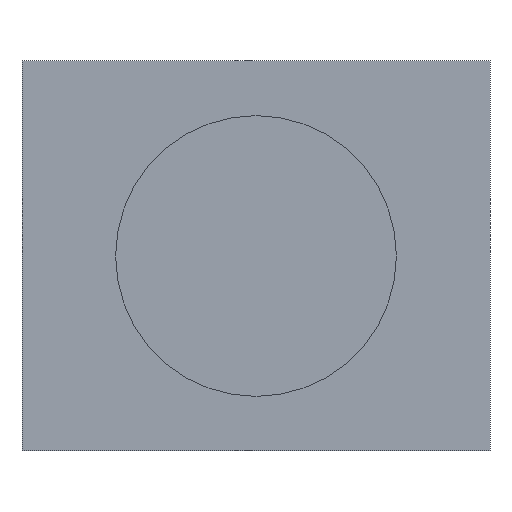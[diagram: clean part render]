
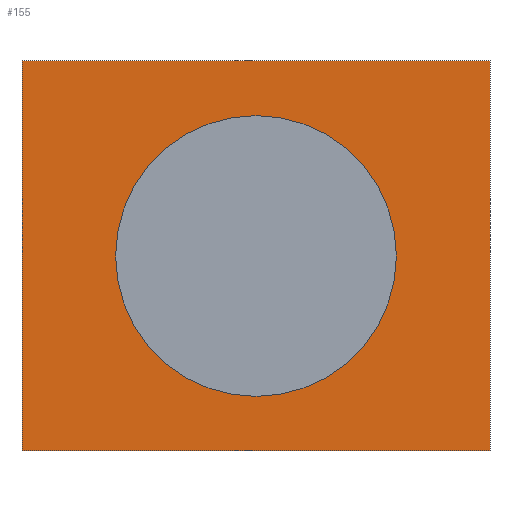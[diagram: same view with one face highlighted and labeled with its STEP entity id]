
A CAD part, front view. The second image highlights one B-rep face of the part: STEP entity #155.
In plain terms, the highlighted planar face has unit normal (0, -1, 0).
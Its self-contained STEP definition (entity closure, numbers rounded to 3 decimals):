
#39 = EDGE_CURVE('',#40,#42,#44,.T.);
#40 = VERTEX_POINT('',#41);
#41 = CARTESIAN_POINT('',(-3.,-8.5,0.));
#42 = VERTEX_POINT('',#43);
#43 = CARTESIAN_POINT('',(-3.,-8.5,5.));
#44 = SURFACE_CURVE('',#45,(#49,#61),.PCURVE_S1.);
#45 = LINE('',#46,#47);
#46 = CARTESIAN_POINT('',(-3.,-8.5,0.));
#47 = VECTOR('',#48,1.);
#48 = DIRECTION('',(0.,0.,1.));
#49 = PCURVE('',#50,#55);
#50 = PLANE('',#51);
#51 = AXIS2_PLACEMENT_3D('',#52,#53,#54);
#52 = CARTESIAN_POINT('',(-3.,-8.5,0.));
#53 = DIRECTION('',(1.,0.,0.));
#54 = DIRECTION('',(0.,0.,1.));
#55 = DEFINITIONAL_REPRESENTATION('',(#56),#60);
#56 = LINE('',#57,#58);
#57 = CARTESIAN_POINT('',(0.,0.));
#58 = VECTOR('',#59,1.);
#59 = DIRECTION('',(1.,0.));
#60 = ( GEOMETRIC_REPRESENTATION_CONTEXT(2) 
PARAMETRIC_REPRESENTATION_CONTEXT() REPRESENTATION_CONTEXT('2D SPACE',''
  ) );
#61 = PCURVE('',#62,#67);
#62 = PLANE('',#63);
#63 = AXIS2_PLACEMENT_3D('',#64,#65,#66);
#64 = CARTESIAN_POINT('',(-3.,-8.5,0.));
#65 = DIRECTION('',(0.,1.,0.));
#66 = DIRECTION('',(0.,0.,1.));
#67 = DEFINITIONAL_REPRESENTATION('',(#68),#72);
#68 = LINE('',#69,#70);
#69 = CARTESIAN_POINT('',(0.,0.));
#70 = VECTOR('',#71,1.);
#71 = DIRECTION('',(1.,0.));
#72 = ( GEOMETRIC_REPRESENTATION_CONTEXT(2) 
PARAMETRIC_REPRESENTATION_CONTEXT() REPRESENTATION_CONTEXT('2D SPACE',''
  ) );
#90 = PLANE('',#91);
#91 = AXIS2_PLACEMENT_3D('',#92,#93,#94);
#92 = CARTESIAN_POINT('',(-3.,-8.5,0.));
#93 = DIRECTION('',(0.,0.,1.));
#94 = DIRECTION('',(1.,0.,0.));
#144 = PLANE('',#145);
#145 = AXIS2_PLACEMENT_3D('',#146,#147,#148);
#146 = CARTESIAN_POINT('',(-3.,-8.5,5.));
#147 = DIRECTION('',(0.,0.,1.));
#148 = DIRECTION('',(1.,0.,0.));
#155 = ADVANCED_FACE('',(#156,#231),#62,.F.);
#156 = FACE_BOUND('',#157,.F.);
#157 = EDGE_LOOP('',(#158,#181,#182,#205));
#158 = ORIENTED_EDGE('',*,*,#159,.F.);
#159 = EDGE_CURVE('',#40,#160,#162,.T.);
#160 = VERTEX_POINT('',#161);
#161 = CARTESIAN_POINT('',(3.,-8.5,0.));
#162 = SURFACE_CURVE('',#163,(#167,#174),.PCURVE_S1.);
#163 = LINE('',#164,#165);
#164 = CARTESIAN_POINT('',(-3.,-8.5,0.));
#165 = VECTOR('',#166,1.);
#166 = DIRECTION('',(1.,0.,0.));
#167 = PCURVE('',#62,#168);
#168 = DEFINITIONAL_REPRESENTATION('',(#169),#173);
#169 = LINE('',#170,#171);
#170 = CARTESIAN_POINT('',(0.,0.));
#171 = VECTOR('',#172,1.);
#172 = DIRECTION('',(0.,1.));
#173 = ( GEOMETRIC_REPRESENTATION_CONTEXT(2) 
PARAMETRIC_REPRESENTATION_CONTEXT() REPRESENTATION_CONTEXT('2D SPACE',''
  ) );
#174 = PCURVE('',#90,#175);
#175 = DEFINITIONAL_REPRESENTATION('',(#176),#180);
#176 = LINE('',#177,#178);
#177 = CARTESIAN_POINT('',(0.,0.));
#178 = VECTOR('',#179,1.);
#179 = DIRECTION('',(1.,0.));
#180 = ( GEOMETRIC_REPRESENTATION_CONTEXT(2) 
PARAMETRIC_REPRESENTATION_CONTEXT() REPRESENTATION_CONTEXT('2D SPACE',''
  ) );
#181 = ORIENTED_EDGE('',*,*,#39,.T.);
#182 = ORIENTED_EDGE('',*,*,#183,.T.);
#183 = EDGE_CURVE('',#42,#184,#186,.T.);
#184 = VERTEX_POINT('',#185);
#185 = CARTESIAN_POINT('',(3.,-8.5,5.));
#186 = SURFACE_CURVE('',#187,(#191,#198),.PCURVE_S1.);
#187 = LINE('',#188,#189);
#188 = CARTESIAN_POINT('',(-3.,-8.5,5.));
#189 = VECTOR('',#190,1.);
#190 = DIRECTION('',(1.,0.,0.));
#191 = PCURVE('',#62,#192);
#192 = DEFINITIONAL_REPRESENTATION('',(#193),#197);
#193 = LINE('',#194,#195);
#194 = CARTESIAN_POINT('',(5.,0.));
#195 = VECTOR('',#196,1.);
#196 = DIRECTION('',(0.,1.));
#197 = ( GEOMETRIC_REPRESENTATION_CONTEXT(2) 
PARAMETRIC_REPRESENTATION_CONTEXT() REPRESENTATION_CONTEXT('2D SPACE',''
  ) );
#198 = PCURVE('',#144,#199);
#199 = DEFINITIONAL_REPRESENTATION('',(#200),#204);
#200 = LINE('',#201,#202);
#201 = CARTESIAN_POINT('',(0.,0.));
#202 = VECTOR('',#203,1.);
#203 = DIRECTION('',(1.,0.));
#204 = ( GEOMETRIC_REPRESENTATION_CONTEXT(2) 
PARAMETRIC_REPRESENTATION_CONTEXT() REPRESENTATION_CONTEXT('2D SPACE',''
  ) );
#205 = ORIENTED_EDGE('',*,*,#206,.F.);
#206 = EDGE_CURVE('',#160,#184,#207,.T.);
#207 = SURFACE_CURVE('',#208,(#212,#219),.PCURVE_S1.);
#208 = LINE('',#209,#210);
#209 = CARTESIAN_POINT('',(3.,-8.5,0.));
#210 = VECTOR('',#211,1.);
#211 = DIRECTION('',(0.,0.,1.));
#212 = PCURVE('',#62,#213);
#213 = DEFINITIONAL_REPRESENTATION('',(#214),#218);
#214 = LINE('',#215,#216);
#215 = CARTESIAN_POINT('',(0.,6.));
#216 = VECTOR('',#217,1.);
#217 = DIRECTION('',(1.,0.));
#218 = ( GEOMETRIC_REPRESENTATION_CONTEXT(2) 
PARAMETRIC_REPRESENTATION_CONTEXT() REPRESENTATION_CONTEXT('2D SPACE',''
  ) );
#219 = PCURVE('',#220,#225);
#220 = PLANE('',#221);
#221 = AXIS2_PLACEMENT_3D('',#222,#223,#224);
#222 = CARTESIAN_POINT('',(3.,-8.5,0.));
#223 = DIRECTION('',(1.,0.,0.));
#224 = DIRECTION('',(0.,0.,1.));
#225 = DEFINITIONAL_REPRESENTATION('',(#226),#230);
#226 = LINE('',#227,#228);
#227 = CARTESIAN_POINT('',(0.,0.));
#228 = VECTOR('',#229,1.);
#229 = DIRECTION('',(1.,0.));
#230 = ( GEOMETRIC_REPRESENTATION_CONTEXT(2) 
PARAMETRIC_REPRESENTATION_CONTEXT() REPRESENTATION_CONTEXT('2D SPACE',''
  ) );
#231 = FACE_BOUND('',#232,.F.);
#232 = EDGE_LOOP('',(#233));
#233 = ORIENTED_EDGE('',*,*,#234,.T.);
#234 = EDGE_CURVE('',#235,#235,#237,.T.);
#235 = VERTEX_POINT('',#236);
#236 = CARTESIAN_POINT('',(1.8,-8.5,2.5));
#237 = SURFACE_CURVE('',#238,(#243,#254),.PCURVE_S1.);
#238 = CIRCLE('',#239,1.8);
#239 = AXIS2_PLACEMENT_3D('',#240,#241,#242);
#240 = CARTESIAN_POINT('',(0.,-8.5,2.5));
#241 = DIRECTION('',(0.,-1.,0.));
#242 = DIRECTION('',(1.,0.,0.));
#243 = PCURVE('',#62,#244);
#244 = DEFINITIONAL_REPRESENTATION('',(#245),#253);
#245 = ( BOUNDED_CURVE() B_SPLINE_CURVE(2,(#246,#247,#248,#249,#250,#251
,#252),.UNSPECIFIED.,.T.,.F.) B_SPLINE_CURVE_WITH_KNOTS((1,2,2,2,2,1),(
    -2.094,0.,2.094,4.189,6.283,
8.378),.UNSPECIFIED.) CURVE() GEOMETRIC_REPRESENTATION_ITEM() 
RATIONAL_B_SPLINE_CURVE((1.,0.5,1.,0.5,1.,0.5,1.)) REPRESENTATION_ITEM(
  '') );
#246 = CARTESIAN_POINT('',(2.5,4.8));
#247 = CARTESIAN_POINT('',(5.618,4.8));
#248 = CARTESIAN_POINT('',(4.059,2.1));
#249 = CARTESIAN_POINT('',(2.5,-0.6));
#250 = CARTESIAN_POINT('',(0.941,2.1));
#251 = CARTESIAN_POINT('',(-0.618,4.8));
#252 = CARTESIAN_POINT('',(2.5,4.8));
#253 = ( GEOMETRIC_REPRESENTATION_CONTEXT(2) 
PARAMETRIC_REPRESENTATION_CONTEXT() REPRESENTATION_CONTEXT('2D SPACE',''
  ) );
#254 = PCURVE('',#255,#260);
#255 = CYLINDRICAL_SURFACE('',#256,1.8);
#256 = AXIS2_PLACEMENT_3D('',#257,#258,#259);
#257 = CARTESIAN_POINT('',(0.,-8.6,2.5));
#258 = DIRECTION('',(0.,-1.,0.));
#259 = DIRECTION('',(1.,0.,0.));
#260 = DEFINITIONAL_REPRESENTATION('',(#261),#265);
#261 = LINE('',#262,#263);
#262 = CARTESIAN_POINT('',(0.,-0.1));
#263 = VECTOR('',#264,1.);
#264 = DIRECTION('',(1.,0.));
#265 = ( GEOMETRIC_REPRESENTATION_CONTEXT(2) 
PARAMETRIC_REPRESENTATION_CONTEXT() REPRESENTATION_CONTEXT('2D SPACE',''
  ) );
